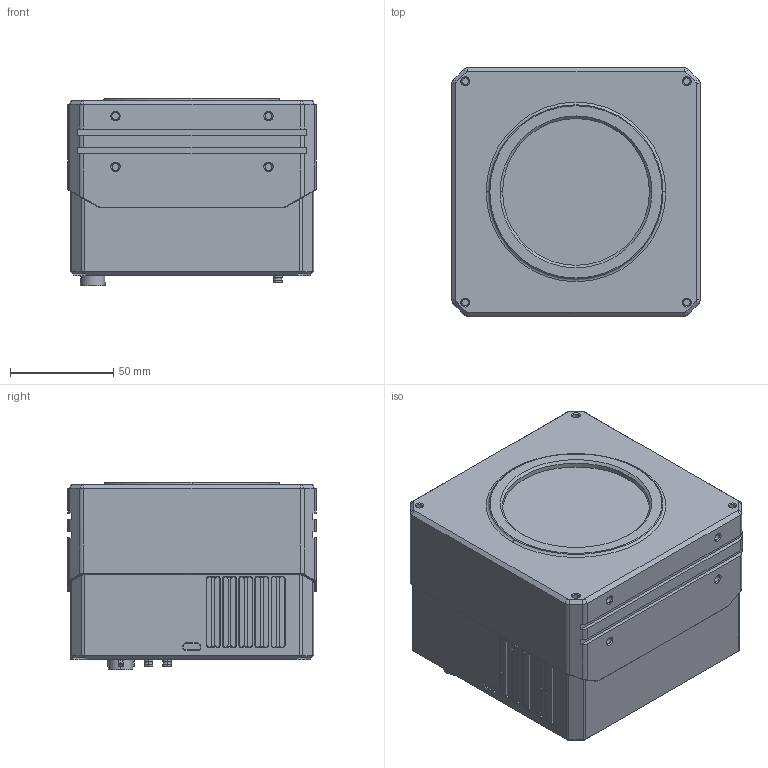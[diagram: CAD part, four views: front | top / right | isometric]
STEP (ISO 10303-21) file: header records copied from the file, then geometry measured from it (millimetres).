
FILE_DESCRIPTION((''),'2;1');
FILE_NAME('00_X6_DJ_ASM_ASM','2020-03-17T11:43:50',('wangyijun6'),(''),'CREO PARAMETRIC BY PTC INC, 2017260','CREO PARAMETRIC BY PTC INC, 2017260','');
FILE_SCHEMA(('CONFIG_CONTROL_DESIGN'));
Length unit declared in the file: millimetre
Products named in the file (1): 00_X6_DJ_ASM_ASM
Bounding box: 120 x 120 x 90.66 mm (x, y, z)
Volume: 1169012 mm3; surface area: 88641 mm2
Topology: 1 solids, 21 shells, 1192 faces, 2932 edges, 1850 vertices
Faces by surface type: plane 553, cylinder 352, cone 225, torus 46, bspline 16
Entity records: 35878 total; most frequent: CARTESIAN_POINT 7044, DIRECTION 6324, ORIENTED_EDGE 5824, EDGE_CURVE 2912, AXIS2_PLACEMENT_3D 2378, VERTEX_POINT 1850, VECTOR 1568, LINE 1568
